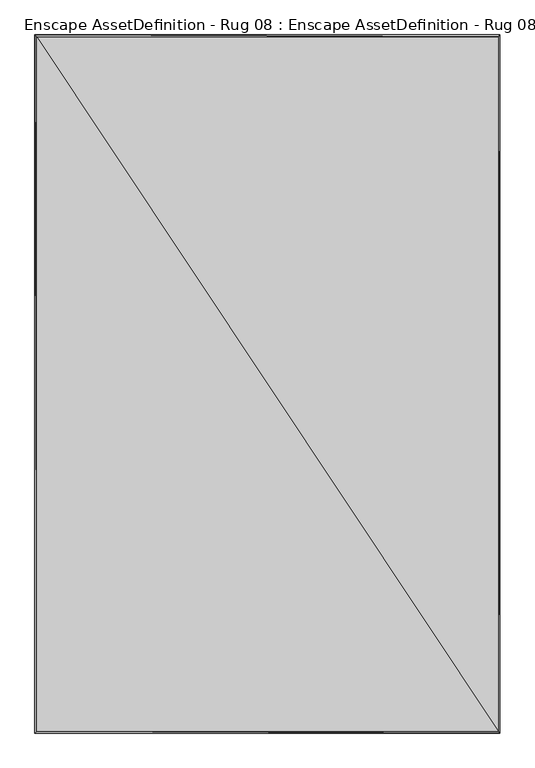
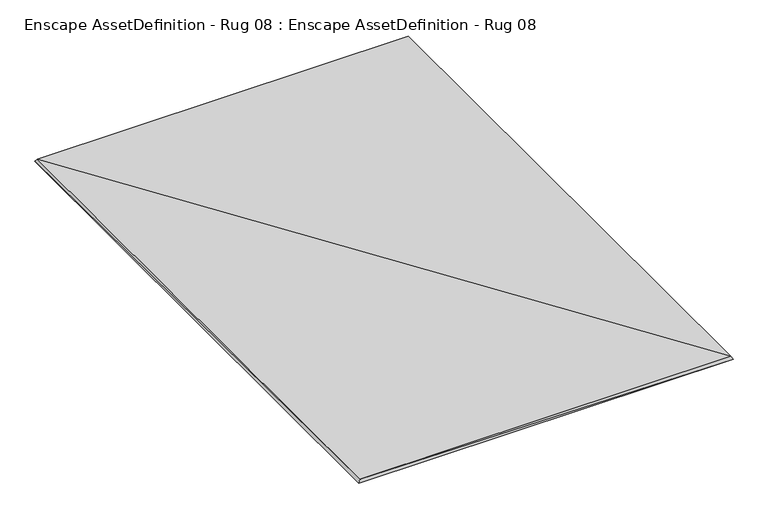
"""IFC4 building model written with IfcOpenShell, lengths in millimetres: geographic element geometry, Enscape AssetDefinition - Rug 08 : Enscape AssetDefinition - Rug 08."""

from ifc_helpers import new_model, si_unit, origin, place, context, project, spatial, faceted_brep, source, transform, mapped, element, save


def enscape_assetdefinition_rug_08_enscape_assetdefinition_rug_6e1646d1(model_context):
    return source(origin(), model_context, "Body", "Brep", [
        faceted_brep([(992.2863841, 1492.2863245, 13.0004799), (992.2863841, -1492.2863245, 12.9995197), (1000.0, 1500.0, 0.00048), (-992.2863841, -1492.2863245, 12.9995197), (-992.2863841, 1492.2863245, 13.0004799), (-1000.0, -1500.0, -0.00048), (-1000.0, 1500.0, 0.00048), (1000.0, -1500.0, -0.00048)], [[[0, 1, 2]], [[3, 1, 4]], [[5, 3, 6]], [[4, 0, 6]], [[1, 3, 7]], [[2, 7, 6]], [[2, 1, 7]], [[4, 1, 0]], [[6, 3, 4]], [[6, 0, 2]], [[7, 3, 5]], [[6, 7, 5]]]),
    ])


if __name__ == "__main__":
    model = new_model("IFC4")
    model_context = context("Model", 3, world=origin())
    ifc_project = project(units=[si_unit("LENGTHUNIT", "METRE", prefix="MILLI")], contexts=[model_context])
    site = spatial("IfcSite", under=ifc_project)
    building = spatial("IfcBuilding", under=site)
    placement = place(None, origin())
    enscape_assetdefinition_rug_08_enscape_assetdefinition_rug_shape = enscape_assetdefinition_rug_08_enscape_assetdefinition_rug_6e1646d1(model_context)
    element("IfcGeographicElement", 1, ObjectType="Enscape AssetDefinition - Rug 08 : Enscape AssetDefinition - Rug 08", at=placement, inside=building, context=model_context, shape_type="MappedRepresentation", body=[
        mapped(enscape_assetdefinition_rug_08_enscape_assetdefinition_rug_shape, transform((0.0, 0.0, 0.0), x_axis=(1.0, 0.0, 0.0), y_axis=(0.0, 1.0, 0.0), z_axis=(0.0, 0.0, 1.0))),
    ])
    save(model, "model.ifc")
